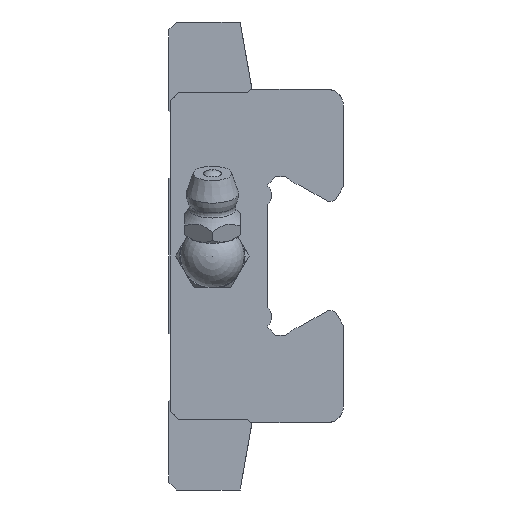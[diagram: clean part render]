
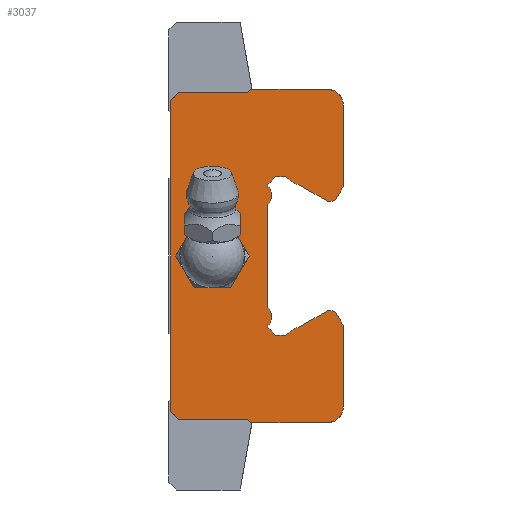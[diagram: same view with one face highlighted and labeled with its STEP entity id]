
A CAD part, left-side view. The second image highlights one B-rep face of the part: STEP entity #3037.
In plain terms, the highlighted planar face has unit normal (-1, 0, 0).
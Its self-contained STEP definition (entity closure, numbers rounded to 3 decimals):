
#90=LINE('',#4606,#410);
#97=LINE('',#4620,#417);
#130=LINE('',#4691,#450);
#146=LINE('',#4724,#466);
#149=LINE('',#4729,#469);
#156=LINE('',#4746,#476);
#173=LINE('',#4775,#493);
#177=LINE('',#4784,#497);
#179=LINE('',#4789,#499);
#182=LINE('',#4797,#502);
#183=LINE('',#4801,#503);
#184=LINE('',#4803,#504);
#185=LINE('',#4805,#505);
#186=LINE('',#4809,#506);
#187=LINE('',#4813,#507);
#188=LINE('',#4815,#508);
#189=LINE('',#4817,#509);
#190=LINE('',#4819,#510);
#191=LINE('',#4823,#511);
#192=LINE('',#4827,#512);
#193=LINE('',#4829,#513);
#194=LINE('',#4831,#514);
#195=LINE('',#4833,#515);
#196=LINE('',#4837,#516);
#410=VECTOR('',#3630,1000.);
#417=VECTOR('',#3641,1000.);
#450=VECTOR('',#3696,1000.);
#466=VECTOR('',#3718,1000.);
#469=VECTOR('',#3723,1000.);
#476=VECTOR('',#3740,1000.);
#493=VECTOR('',#3763,1000.);
#497=VECTOR('',#3769,1000.);
#499=VECTOR('',#3773,1000.);
#502=VECTOR('',#3780,1000.);
#503=VECTOR('',#3783,1000.);
#504=VECTOR('',#3784,1000.);
#505=VECTOR('',#3787,1000.);
#506=VECTOR('',#3790,1000.);
#507=VECTOR('',#3793,1000.);
#508=VECTOR('',#3794,1000.);
#509=VECTOR('',#3795,1000.);
#510=VECTOR('',#3796,1000.);
#511=VECTOR('',#3799,1000.);
#512=VECTOR('',#3802,1000.);
#513=VECTOR('',#3803,1000.);
#514=VECTOR('',#3804,1000.);
#515=VECTOR('',#3805,1000.);
#516=VECTOR('',#3808,1000.);
#725=PLANE('',#3269);
#876=CIRCLE('',#3270,3.);
#877=CIRCLE('',#3271,2.);
#878=CIRCLE('',#3272,2.);
#879=CIRCLE('',#3273,1.);
#880=CIRCLE('',#3274,1.65);
#881=CIRCLE('',#3275,1.65);
#882=CIRCLE('',#3276,1.65);
#883=CIRCLE('',#3277,1.65);
#884=CIRCLE('',#3278,1.);
#1220=ORIENTED_EDGE('',*,*,#1978,.T.);
#1221=ORIENTED_EDGE('',*,*,#1979,.T.);
#1222=ORIENTED_EDGE('',*,*,#1973,.F.);
#1223=ORIENTED_EDGE('',*,*,#1980,.F.);
#1224=ORIENTED_EDGE('',*,*,#1981,.F.);
#1225=ORIENTED_EDGE('',*,*,#1982,.F.);
#1226=ORIENTED_EDGE('',*,*,#1952,.F.);
#1227=ORIENTED_EDGE('',*,*,#1940,.F.);
#1228=ORIENTED_EDGE('',*,*,#1969,.F.);
#1229=ORIENTED_EDGE('',*,*,#1924,.F.);
#1230=ORIENTED_EDGE('',*,*,#1943,.F.);
#1231=ORIENTED_EDGE('',*,*,#1889,.F.);
#1232=ORIENTED_EDGE('',*,*,#1882,.F.);
#1233=ORIENTED_EDGE('',*,*,#1983,.F.);
#1234=ORIENTED_EDGE('',*,*,#1975,.F.);
#1235=ORIENTED_EDGE('',*,*,#1984,.T.);
#1236=ORIENTED_EDGE('',*,*,#1985,.F.);
#1237=ORIENTED_EDGE('',*,*,#1986,.T.);
#1238=ORIENTED_EDGE('',*,*,#1987,.F.);
#1239=ORIENTED_EDGE('',*,*,#1988,.T.);
#1240=ORIENTED_EDGE('',*,*,#1989,.T.);
#1241=ORIENTED_EDGE('',*,*,#1990,.T.);
#1242=ORIENTED_EDGE('',*,*,#1991,.T.);
#1243=ORIENTED_EDGE('',*,*,#1992,.F.);
#1244=ORIENTED_EDGE('',*,*,#1993,.T.);
#1245=ORIENTED_EDGE('',*,*,#1994,.F.);
#1246=ORIENTED_EDGE('',*,*,#1995,.T.);
#1247=ORIENTED_EDGE('',*,*,#1996,.T.);
#1248=ORIENTED_EDGE('',*,*,#1997,.T.);
#1249=ORIENTED_EDGE('',*,*,#1998,.T.);
#1250=ORIENTED_EDGE('',*,*,#1999,.F.);
#1251=ORIENTED_EDGE('',*,*,#2000,.T.);
#1252=ORIENTED_EDGE('',*,*,#2001,.F.);
#1882=EDGE_CURVE('',#2285,#2283,#90,.T.);
#1889=EDGE_CURVE('',#2283,#2290,#97,.T.);
#1924=EDGE_CURVE('',#2317,#2318,#130,.T.);
#1940=EDGE_CURVE('',#2331,#2332,#146,.T.);
#1943=EDGE_CURVE('',#2290,#2317,#149,.T.);
#1952=EDGE_CURVE('',#2332,#2338,#156,.T.);
#1969=EDGE_CURVE('',#2318,#2331,#173,.T.);
#1973=EDGE_CURVE('',#2350,#2348,#177,.T.);
#1975=EDGE_CURVE('',#2351,#2353,#179,.T.);
#1978=EDGE_CURVE('',#2355,#2355,#876,.T.);
#1979=EDGE_CURVE('',#2356,#2348,#182,.T.);
#1980=EDGE_CURVE('',#2357,#2350,#877,.T.);
#1981=EDGE_CURVE('',#2358,#2357,#183,.T.);
#1982=EDGE_CURVE('',#2338,#2358,#184,.T.);
#1983=EDGE_CURVE('',#2353,#2285,#878,.T.);
#1984=EDGE_CURVE('',#2351,#2359,#185,.T.);
#1985=EDGE_CURVE('',#2360,#2359,#879,.T.);
#1986=EDGE_CURVE('',#2360,#2361,#186,.T.);
#1987=EDGE_CURVE('',#2362,#2361,#880,.T.);
#1988=EDGE_CURVE('',#2362,#2363,#187,.T.);
#1989=EDGE_CURVE('',#2363,#2364,#188,.T.);
#1990=EDGE_CURVE('',#2364,#2365,#189,.T.);
#1991=EDGE_CURVE('',#2365,#2366,#190,.T.);
#1992=EDGE_CURVE('',#2367,#2366,#881,.T.);
#1993=EDGE_CURVE('',#2367,#2368,#191,.T.);
#1994=EDGE_CURVE('',#2369,#2368,#882,.T.);
#1995=EDGE_CURVE('',#2369,#2370,#192,.T.);
#1996=EDGE_CURVE('',#2370,#2371,#193,.T.);
#1997=EDGE_CURVE('',#2371,#2372,#194,.T.);
#1998=EDGE_CURVE('',#2372,#2373,#195,.T.);
#1999=EDGE_CURVE('',#2374,#2373,#883,.T.);
#2000=EDGE_CURVE('',#2374,#2375,#196,.T.);
#2001=EDGE_CURVE('',#2356,#2375,#884,.T.);
#2283=VERTEX_POINT('',#4601);
#2285=VERTEX_POINT('',#4605);
#2290=VERTEX_POINT('',#4618);
#2317=VERTEX_POINT('',#4690);
#2318=VERTEX_POINT('',#4692);
#2331=VERTEX_POINT('',#4723);
#2332=VERTEX_POINT('',#4725);
#2338=VERTEX_POINT('',#4747);
#2348=VERTEX_POINT('',#4779);
#2350=VERTEX_POINT('',#4783);
#2351=VERTEX_POINT('',#4787);
#2353=VERTEX_POINT('',#4790);
#2355=VERTEX_POINT('',#4796);
#2356=VERTEX_POINT('',#4798);
#2357=VERTEX_POINT('',#4800);
#2358=VERTEX_POINT('',#4802);
#2359=VERTEX_POINT('',#4806);
#2360=VERTEX_POINT('',#4808);
#2361=VERTEX_POINT('',#4810);
#2362=VERTEX_POINT('',#4812);
#2363=VERTEX_POINT('',#4814);
#2364=VERTEX_POINT('',#4816);
#2365=VERTEX_POINT('',#4818);
#2366=VERTEX_POINT('',#4820);
#2367=VERTEX_POINT('',#4822);
#2368=VERTEX_POINT('',#4824);
#2369=VERTEX_POINT('',#4826);
#2370=VERTEX_POINT('',#4828);
#2371=VERTEX_POINT('',#4830);
#2372=VERTEX_POINT('',#4832);
#2373=VERTEX_POINT('',#4834);
#2374=VERTEX_POINT('',#4836);
#2375=VERTEX_POINT('',#4838);
#2608=EDGE_LOOP('',(#1220));
#2609=EDGE_LOOP('',(#1221,#1222,#1223,#1224,#1225,#1226,#1227,#1228,#1229,
#1230,#1231,#1232,#1233,#1234,#1235,#1236,#1237,#1238,#1239,#1240,#1241,
#1242,#1243,#1244,#1245,#1246,#1247,#1248,#1249,#1250,#1251,#1252));
#2823=FACE_BOUND('',#2608,.T.);
#2824=FACE_BOUND('',#2609,.T.);
#3037=ADVANCED_FACE('',(#2823,#2824),#725,.F.);
#3269=AXIS2_PLACEMENT_3D('',#4794,#3776,#3777);
#3270=AXIS2_PLACEMENT_3D('',#4795,#3778,#3779);
#3271=AXIS2_PLACEMENT_3D('',#4799,#3781,#3782);
#3272=AXIS2_PLACEMENT_3D('',#4804,#3785,#3786);
#3273=AXIS2_PLACEMENT_3D('',#4807,#3788,#3789);
#3274=AXIS2_PLACEMENT_3D('',#4811,#3791,#3792);
#3275=AXIS2_PLACEMENT_3D('',#4821,#3797,#3798);
#3276=AXIS2_PLACEMENT_3D('',#4825,#3800,#3801);
#3277=AXIS2_PLACEMENT_3D('',#4835,#3806,#3807);
#3278=AXIS2_PLACEMENT_3D('',#4839,#3809,#3810);
#3630=DIRECTION('',(0.,1.,0.));
#3641=DIRECTION('',(0.,0.707,0.707));
#3696=DIRECTION('',(0.,0.707,0.707));
#3718=DIRECTION('',(0.,-0.707,0.707));
#3723=DIRECTION('',(0.,1.,0.));
#3740=DIRECTION('',(0.,-1.,0.));
#3763=DIRECTION('',(0.,0.,1.));
#3769=DIRECTION('',(0.,0.,-1.));
#3773=DIRECTION('',(0.,0.,-1.));
#3776=DIRECTION('',(1.,0.,0.));
#3777=DIRECTION('',(0.,0.,-1.));
#3778=DIRECTION('',(1.,0.,0.));
#3779=DIRECTION('',(0.,0.,-1.));
#3780=DIRECTION('',(0.,-0.499,0.867));
#3781=DIRECTION('',(1.,0.,0.));
#3782=DIRECTION('',(0.,0.,-1.));
#3783=DIRECTION('',(0.,-1.,0.));
#3784=DIRECTION('',(0.,-0.707,0.707));
#3785=DIRECTION('',(1.,0.,0.));
#3786=DIRECTION('',(0.,0.,-1.));
#3787=DIRECTION('',(0.,0.499,0.867));
#3788=DIRECTION('',(1.,0.,0.));
#3789=DIRECTION('',(0.,0.,-1.));
#3790=DIRECTION('',(0.,0.862,-0.506));
#3791=DIRECTION('',(1.,0.,0.));
#3792=DIRECTION('',(0.,0.,-1.));
#3793=DIRECTION('',(0.,0.862,-0.506));
#3794=DIRECTION('',(0.,1.,0.));
#3795=DIRECTION('',(0.,0.707,0.707));
#3796=DIRECTION('',(0.,0.,1.));
#3797=DIRECTION('',(1.,0.,0.));
#3798=DIRECTION('',(0.,0.,-1.));
#3799=DIRECTION('',(0.,0.,1.));
#3800=DIRECTION('',(1.,0.,0.));
#3801=DIRECTION('',(0.,0.,-1.));
#3802=DIRECTION('',(0.,0.,1.));
#3803=DIRECTION('',(0.,-0.707,0.707));
#3804=DIRECTION('',(0.,-1.,0.));
#3805=DIRECTION('',(0.,-0.862,-0.506));
#3806=DIRECTION('',(1.,0.,0.));
#3807=DIRECTION('',(0.,0.,-1.));
#3808=DIRECTION('',(0.,-0.862,-0.506));
#3809=DIRECTION('',(1.,0.,0.));
#3810=DIRECTION('',(0.,0.,-1.));
#4601=CARTESIAN_POINT('',(-33.25,11.66,-21.));
#4605=CARTESIAN_POINT('',(-33.25,2.,-21.));
#4606=CARTESIAN_POINT('',(-33.25,2.,-21.));
#4618=CARTESIAN_POINT('',(-33.25,12.06,-20.6));
#4620=CARTESIAN_POINT('',(-33.25,11.66,-21.));
#4690=CARTESIAN_POINT('',(-33.25,20.75,-20.6));
#4691=CARTESIAN_POINT('',(-33.25,20.75,-20.6));
#4692=CARTESIAN_POINT('',(-33.25,21.75,-19.6));
#4723=CARTESIAN_POINT('',(-33.25,21.75,19.6));
#4724=CARTESIAN_POINT('',(-33.25,21.75,19.6));
#4725=CARTESIAN_POINT('',(-33.25,20.75,20.6));
#4729=CARTESIAN_POINT('',(-33.25,12.06,-20.6));
#4746=CARTESIAN_POINT('',(-33.25,20.75,20.6));
#4747=CARTESIAN_POINT('',(-33.25,12.06,20.6));
#4775=CARTESIAN_POINT('',(-33.25,21.75,-19.6));
#4779=CARTESIAN_POINT('',(-33.25,0.,8.736));
#4783=CARTESIAN_POINT('',(-33.25,0.,19.));
#4784=CARTESIAN_POINT('',(-33.25,0.,19.));
#4787=CARTESIAN_POINT('',(-33.25,0.,-8.736));
#4789=CARTESIAN_POINT('',(-33.25,0.,19.));
#4790=CARTESIAN_POINT('',(-33.25,0.,-19.));
#4794=CARTESIAN_POINT('',(-33.25,2.,19.));
#4795=CARTESIAN_POINT('',(-33.25,16.5,0.));
#4796=CARTESIAN_POINT('',(-33.25,16.5,-3.));
#4797=CARTESIAN_POINT('',(-33.25,0.794,7.356));
#4798=CARTESIAN_POINT('',(-33.25,0.794,7.356));
#4799=CARTESIAN_POINT('',(-33.25,2.,19.));
#4800=CARTESIAN_POINT('',(-33.25,2.,21.));
#4801=CARTESIAN_POINT('',(-33.25,11.66,21.));
#4802=CARTESIAN_POINT('',(-33.25,11.66,21.));
#4803=CARTESIAN_POINT('',(-33.25,12.06,20.6));
#4804=CARTESIAN_POINT('',(-33.25,2.,-19.));
#4805=CARTESIAN_POINT('',(-33.25,-0.727,-10.));
#4806=CARTESIAN_POINT('',(-33.25,0.794,-7.356));
#4807=CARTESIAN_POINT('',(-33.25,1.66,-7.856));
#4808=CARTESIAN_POINT('',(-33.25,2.166,-6.994));
#4809=CARTESIAN_POINT('',(-33.25,2.166,-6.994));
#4810=CARTESIAN_POINT('',(-33.25,5.593,-9.004));
#4811=CARTESIAN_POINT('',(-33.25,5.476,-10.65));
#4812=CARTESIAN_POINT('',(-33.25,6.856,-9.745));
#4813=CARTESIAN_POINT('',(-33.25,6.856,-9.745));
#4814=CARTESIAN_POINT('',(-33.25,7.29,-10.));
#4815=CARTESIAN_POINT('',(-33.25,7.29,-10.));
#4816=CARTESIAN_POINT('',(-33.25,8.54,-10.));
#4817=CARTESIAN_POINT('',(-33.25,8.54,-10.));
#4818=CARTESIAN_POINT('',(-33.25,9.5,-9.04));
#4819=CARTESIAN_POINT('',(-33.25,9.5,-9.04));
#4820=CARTESIAN_POINT('',(-33.25,9.5,-8.797));
#4821=CARTESIAN_POINT('',(-33.25,10.686,-7.65));
#4822=CARTESIAN_POINT('',(-33.25,9.5,-6.503));
#4823=CARTESIAN_POINT('',(-33.25,9.5,-6.503));
#4824=CARTESIAN_POINT('',(-33.25,9.5,6.503));
#4825=CARTESIAN_POINT('',(-33.25,10.686,7.65));
#4826=CARTESIAN_POINT('',(-33.25,9.5,8.797));
#4827=CARTESIAN_POINT('',(-33.25,9.5,8.797));
#4828=CARTESIAN_POINT('',(-33.25,9.5,9.04));
#4829=CARTESIAN_POINT('',(-33.25,9.5,9.04));
#4830=CARTESIAN_POINT('',(-33.25,8.54,10.));
#4831=CARTESIAN_POINT('',(-33.25,8.54,10.));
#4832=CARTESIAN_POINT('',(-33.25,7.29,10.));
#4833=CARTESIAN_POINT('',(-33.25,7.29,10.));
#4834=CARTESIAN_POINT('',(-33.25,6.856,9.745));
#4835=CARTESIAN_POINT('',(-33.25,5.476,10.65));
#4836=CARTESIAN_POINT('',(-33.25,5.593,9.004));
#4837=CARTESIAN_POINT('',(-33.25,5.593,9.004));
#4838=CARTESIAN_POINT('',(-33.25,2.166,6.994));
#4839=CARTESIAN_POINT('',(-33.25,1.66,7.856));
